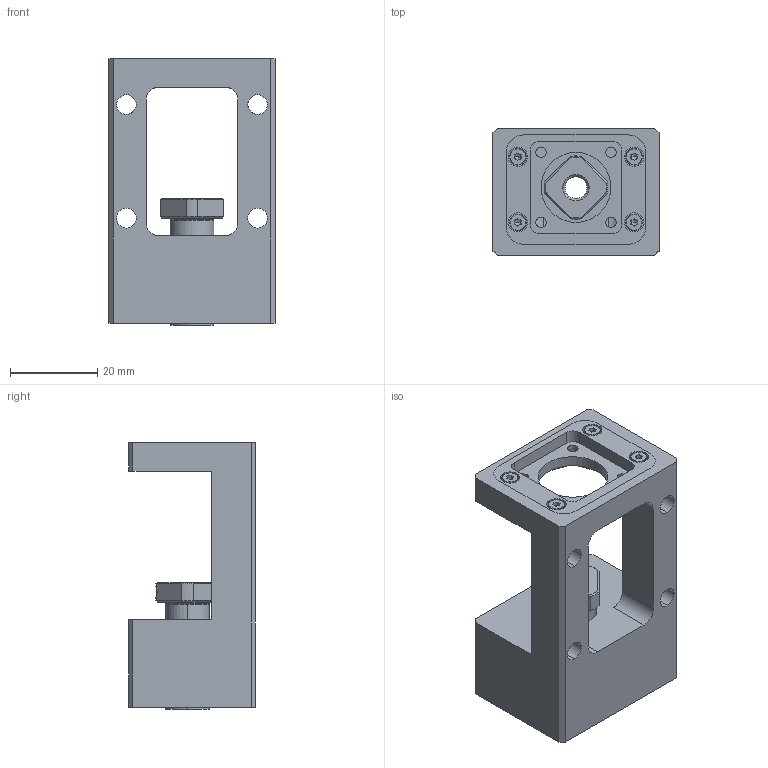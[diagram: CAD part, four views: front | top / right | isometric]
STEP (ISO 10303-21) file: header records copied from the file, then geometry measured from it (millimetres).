
FILE_DESCRIPTION (( 'STEP AP214' ), '1' );
FILE_NAME ('M-SBU-6.20.2.5.STEP', '2026-02-09T09:18:21', ( '决扁浅何厘' ), ( '' ), 'SwSTEP 2.0', 'SolidWorks 2024', '' );
FILE_SCHEMA (( 'AUTOMOTIVE_DESIGN' ));
Length unit declared in the file: millimetre
Products named in the file (9): 20 BRACKET; 6-5 COLLAR; M-SBU-6.20.2.5; EK-6 COVER; socket head cap screw_ks-2-4-2_KS 1003 - M2 x 4 x 4-N; RN6; 6-7 COLLAR; deep groove ball bearing (series 60)_ks_KS B 2023 S60 - 606-S-ZZ; E-SBU-6.20 HOUSING
Assembly tree (12 placements, depth 2):
  M-SBU-6.20.2.5
    E-SBU-6.20 HOUSING
    deep groove ball bearing (series 60)_ks_KS B 2023 S60 - 606-S-ZZ  x2
    EK-6 COVER
    20 BRACKET
    socket head cap screw_ks-2-4-2_KS 1003 - M2 x 4 x 4-N  x4
    6-5 COLLAR
    6-7 COLLAR
    RN6
Bounding box: 38 x 29 x 61 mm (x, y, z)
Volume: 31722.1 mm3; surface area: 18695.8 mm2
Topology: 14 solids, 18 shells, 466 faces, 1073 edges, 659 vertices
Faces by surface type: cylinder 186, plane 176, torus 64, cone 40
Entity records: 10248 total; most frequent: CARTESIAN_POINT 2015, DIRECTION 1792, ORIENTED_EDGE 1546, EDGE_CURVE 773, AXIS2_PLACEMENT_3D 709, VERTEX_POINT 492, EDGE_LOOP 401, LINE 374
